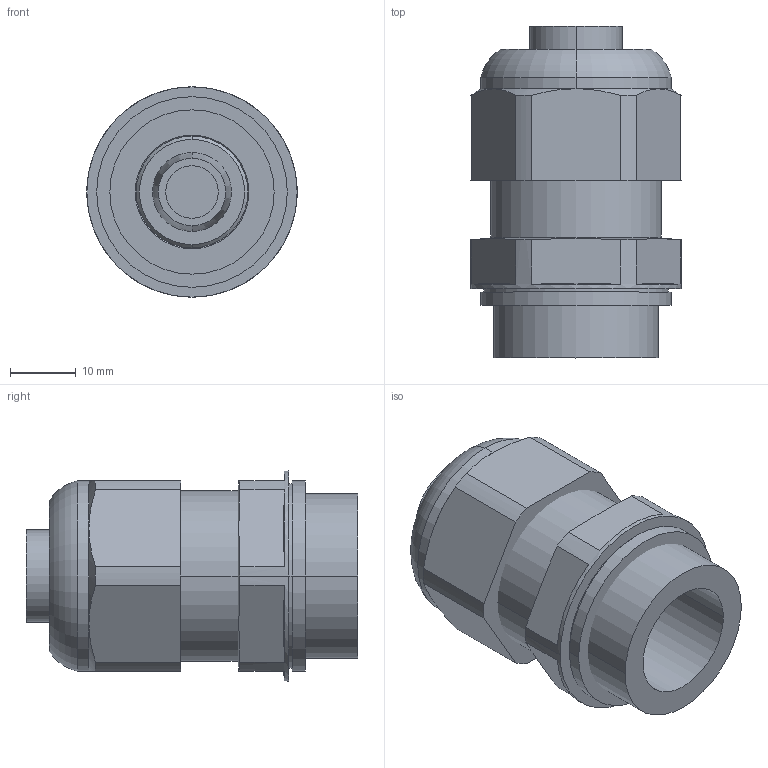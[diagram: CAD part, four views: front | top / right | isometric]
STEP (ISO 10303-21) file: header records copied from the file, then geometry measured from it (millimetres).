
FILE_DESCRIPTION (( 'STEP AP203' ), '1' );
FILE_NAME ('8161_5-M25-17-m_Stopfen-ap203.STEP', '2013-07-11T08:23:05', ( 'Admin' ), ( 'R. STAHL AG' ), 'SwSTEP 2.0', 'SolidWorks 2013', '' );
FILE_SCHEMA (( 'CONFIG_CONTROL_DESIGN' ));
Length unit declared in the file: millimetre
Products named in the file (7): 81_610_78_01_0_Dichtung; 81_610_78_01_0_Reduzierdichtung; 81_610_78_01_0_Hutmutter_Vereinfacht; Anschlussgewindedichtung_M25; 81_619_01_59_0_81_619_03_59_0; 8161_5-M25-17-m_Stopfen-ap203; 81_610_78_01_0_Stutzen_Vereinfacht
Assembly tree (6 placements, depth 2):
  8161_5-M25-17-m_Stopfen-ap203
    81_610_78_01_0_Stutzen_Vereinfacht
    81_610_78_01_0_Dichtung
    81_610_78_01_0_Reduzierdichtung
    81_610_78_01_0_Hutmutter_Vereinfacht
    Anschlussgewindedichtung_M25
    81_619_01_59_0_81_619_03_59_0
Bounding box: 32 x 50.47 x 32 mm (x, y, z)
Volume: 22143.4 mm3; surface area: 17141.7 mm2
Topology: 6 solids, 6 shells, 452 faces, 1197 edges, 742 vertices
Faces by surface type: plane 144, cone 125, cylinder 112, torus 53, bspline 18
Entity records: 14833 total; most frequent: CARTESIAN_POINT 2956, DIRECTION 2407, ORIENTED_EDGE 2358, EDGE_CURVE 1179, AXIS2_PLACEMENT_3D 917, VERTEX_POINT 742, VECTOR 573, LINE 573
